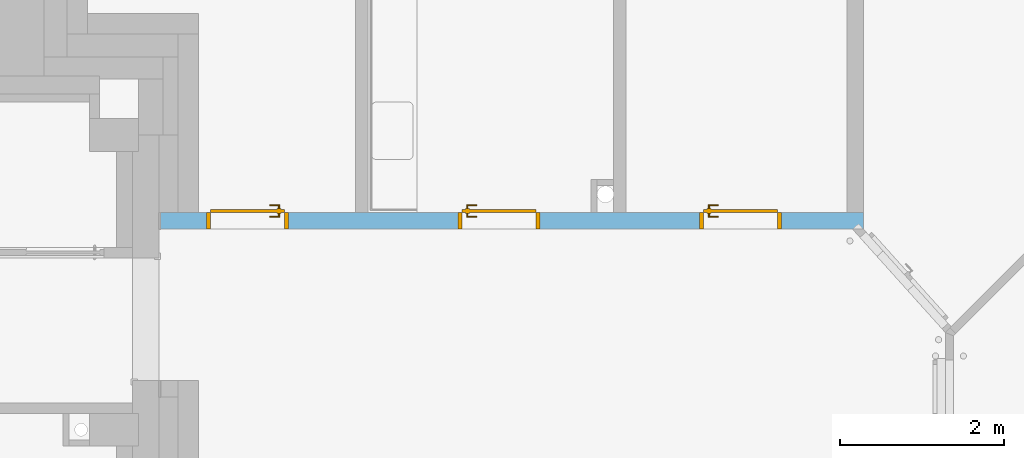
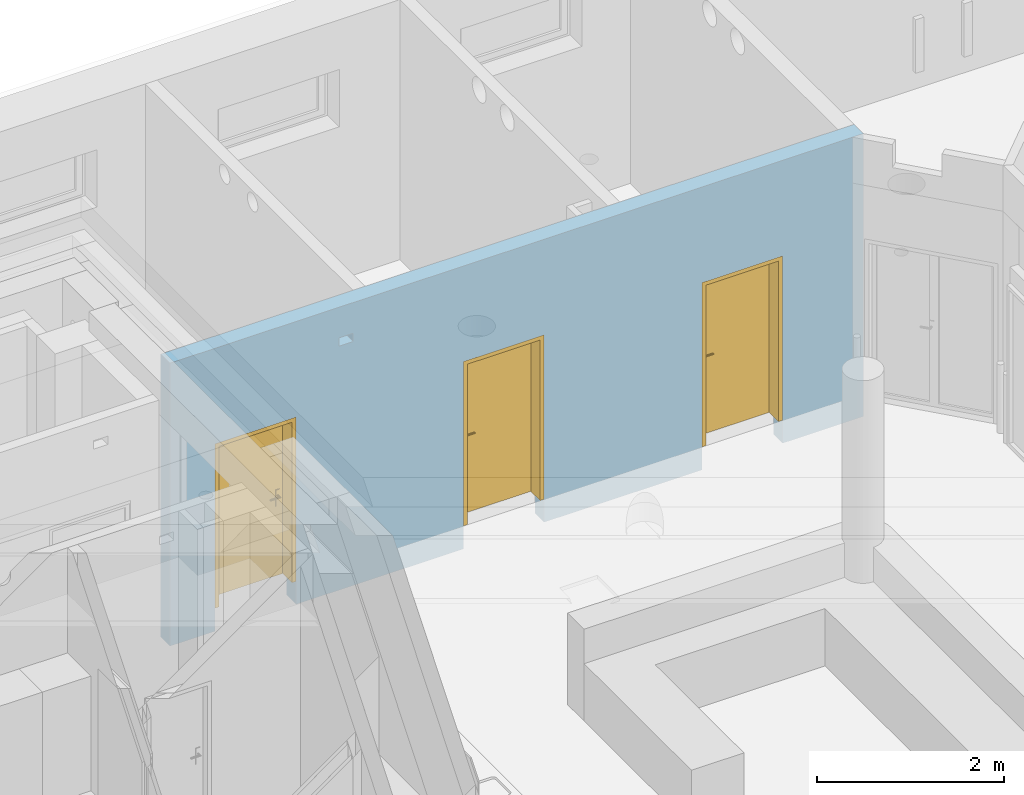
# One storey, part 117 of 140: 3 doors, 4 openings, plus 1 element that does not belong to this part.
"""IFC4 building model written with IfcOpenShell, lengths in metres."""

from ifc_helpers import new_model, entity, si_unit, converted_unit, derived_unit, frame, frame_2d, origin, origin_with_axes, place, context, subcontext, project, spatial, polyline, rectangle, outline, extrude, closed_shell, open_shell, surface_model, source, transform, mapped, material, layer, layer_set, layer_usage, type_object, element, fill, save


model = new_model("IFC4")

# Units and contexts
model_context = context("Model", 3, precision=1e-05, world=origin())
body_context = subcontext(model_context, "Body", "Model", "MODEL_VIEW")
ifc_project = project(units=[si_unit("LENGTHUNIT", "METRE"), si_unit("AREAUNIT", "SQUARE_METRE"), si_unit("VOLUMEUNIT", "CUBIC_METRE"), si_unit("MASSUNIT", "GRAM", prefix="KILO"), converted_unit("PLANEANGLEUNIT", "DEGREE", entity("IfcPlaneAngleMeasure", 0.0174532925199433), si_unit("PLANEANGLEUNIT", "RADIAN"), dimensions=[0, 0, 0, 0, 0, 0, 0]), derived_unit("THERMALTRANSMITTANCEUNIT", [(si_unit("POWERUNIT", "WATT"), 1), (si_unit("THERMODYNAMICTEMPERATUREUNIT", "KELVIN"), -1), (si_unit("LENGTHUNIT", "METRE"), -2)]), derived_unit("VOLUMETRICFLOWRATEUNIT", [(si_unit("LENGTHUNIT", "METRE"), 3), (converted_unit("TIMEUNIT", "hour", entity("IfcTimeMeasure", 3600.0), si_unit("TIMEUNIT", "SECOND"), dimensions=[0, 0, 1, 0, 0, 0, 0]), -1), (si_unit("LENGTHUNIT", "METRE"), -1)])], contexts=[model_context])

# Site, building, storey
site_placement = place(None, origin())
site = spatial("IfcSite", under=ifc_project, at=site_placement, Name="3. ASŘ", CompositionType="ELEMENT")
building_placement = place(site_placement, origin())
building = spatial("IfcBuilding", under=site, at=building_placement, Name="Pavilon C", CompositionType="ELEMENT")
storey_placement = place(building_placement, origin())
storey = spatial("IfcBuildingStorey", under=building, at=storey_placement, Name="Půdorys 1.NP", CompositionType="ELEMENT", Elevation=0.0)

# Wall, openings, doors
ifc_material = material(Name="ZELEZOBETONOVÁ KCE")
ifc_layer = layer(ifc_material, 0.2)
ifc_layer_set = layer_set([ifc_layer])
ifc_layer_usage = layer_usage(ifc_layer_set, "AXIS2", "POSITIVE", 0.0)
wall_placement = place(storey_placement, frame((50.22, 27.65, -0.3)))
wall = element("IfcWall", 1, at=wall_placement, inside=storey, material=ifc_layer_usage, Name="ZELEZOBETONOVÁ KCE", context=body_context, shape_type="SweptSolid", body=[
    extrude(rectangle(XDim=8.58, YDim=0.2, at=frame_2d((4.29, 0.1), x_axis=(1.0, 0.0))), origin_with_axes(), (0.0, 0.0, 1.0), 3.7),
])
opening_1_placement = place(wall_placement, frame((7.58, 0.2, 0.0), z_axis=(0.0, -1.0, 0.0), x_axis=(0.0, 0.0, 1.0)))
opening_1 = element("IfcOpeningElement", 2, at=opening_1_placement, cuts=wall, Name="Dveřní otvor", ObjectType="Opening", context=body_context, shape_type="SweptSolid", body=[
    extrude(outline(polyline([(0.0, 1.0), (2.45, 1.0), (2.45, 0.0), (0.0, 0.0), (0.0, 1.0)])), origin_with_axes(), (0.0, 0.0, 1.0), 0.2),
])
opening_2_placement = place(wall_placement, frame((4.63, 0.2, 0.0), z_axis=(0.0, -1.0, 0.0), x_axis=(0.0, 0.0, 1.0)))
opening_2 = element("IfcOpeningElement", 3, at=opening_2_placement, cuts=wall, Name="Dveřní otvor", ObjectType="Opening", context=body_context, shape_type="SweptSolid", body=[
    extrude(outline(polyline([(0.0, 1.0), (2.45, 1.0), (2.45, 0.0), (0.0, 0.0), (0.0, 1.0)])), origin_with_axes(), (0.0, 0.0, 1.0), 0.2),
])
opening_3_placement = place(wall_placement, frame((1.56, 0.2, 0.0), z_axis=(0.0, -1.0, 0.0), x_axis=(0.0, 0.0, 1.0)))
opening_3 = element("IfcOpeningElement", 4, at=opening_3_placement, cuts=wall, Name="Dveřní otvor", ObjectType="Opening", context=body_context, shape_type="SweptSolid", body=[
    extrude(outline(polyline([(0.0, 1.0), (2.45, 1.0), (2.45, 0.0), (0.0, 0.0), (0.0, 1.0)])), origin_with_axes(), (0.0, 0.0, 1.0), 0.2),
])
opening_4_placement = place(wall_placement, frame((2.0925, 0.0, 3.19), z_axis=(0.0, 1.0, 0.0), x_axis=(0.0, 0.0, 1.0)))
element("IfcOpeningElement", 5, at=opening_4_placement, cuts=wall, Name="ZTI", ObjectType="Opening", context=body_context, shape_type="SweptSolid", body=[
    extrude(outline(polyline([(0.0, 0.175), (0.11, 0.175), (0.11, 0.0), (0.0, 0.0), (0.0, 0.175)])), origin_with_axes(), (0.0, 0.0, 1.0), 0.2),
])
door_type_1 = type_object("IfcDoorType", Name="I.D114", OperationType="NOTDEFINED", ParameterTakesPrecedence=False, PredefinedType="DOOR")
shared_shape_1 = source(origin_with_axes(), body_context, "Body", "SurfaceModel", [
    surface_model("IfcShellBasedSurfaceModel", [(0.0, 0.2, 2.149), (0.0, 0.2, -5.6843418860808e-17), (0.05, 0.2, -5.6843418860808e-17), (0.05, 0.2, 2.149), (0.0, 0.0, -5.6843418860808e-17), (0.0, 2.55795384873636e-16, 2.149), (0.05, 2.55795384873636e-16, 2.149), (0.05, 0.0, -5.6843418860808e-17)], [closed_shell([[[0, 1, 2, 3]], [[4, 5, 6, 7]], [[1, 0, 5, 4]], [[2, 1, 4, 7]], [[3, 2, 7, 6]], [[0, 3, 6, 5]]], orient=[[False], [False], [False], [False], [False], [False]])]),
    surface_model("IfcShellBasedSurfaceModel", [(0.95, 0.2, 2.149), (0.95, 0.2, -5.6843418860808e-17), (1.0, 0.2, -5.6843418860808e-17), (1.0, 0.2, 2.149), (0.95, 0.0, -5.6843418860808e-17), (0.95, 2.55795384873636e-16, 2.149), (1.0, 2.55795384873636e-16, 2.149), (1.0, 0.0, -5.6843418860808e-17)], [closed_shell([[[0, 1, 2, 3]], [[4, 5, 6, 7]], [[1, 0, 5, 4]], [[2, 1, 4, 7]], [[3, 2, 7, 6]], [[0, 3, 6, 5]]], orient=[[False], [False], [False], [False], [False], [False]])]),
    surface_model("IfcShellBasedSurfaceModel", [(0.05, 0.2, 2.149), (0.05, 0.2, 2.099), (0.95, 0.2, 2.099), (0.95, 0.2, 2.149), (0.05, 2.55795384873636e-16, 2.099), (0.05, 2.55795384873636e-16, 2.149), (0.95, 2.55795384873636e-16, 2.149), (0.95, 2.55795384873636e-16, 2.099)], [closed_shell([[[0, 1, 2, 3]], [[4, 5, 6, 7]], [[1, 0, 5, 4]], [[2, 1, 4, 7]], [[3, 2, 7, 6]], [[0, 3, 6, 5]]], orient=[[False], [False], [False], [False], [False], [False]])]),
    surface_model("IfcShellBasedSurfaceModel", [(0.05, 0.24, 2.099), (0.05, 0.24, -5.6843418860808e-17), (0.95, 0.24, -5.6843418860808e-17), (0.95, 0.24, 2.099), (0.05, 0.2, -5.6843418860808e-17), (0.05, 0.2, 2.099), (0.95, 0.2, 2.099), (0.95, 0.2, -5.6843418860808e-17)], [closed_shell([[[0, 1, 2, 3]], [[4, 5, 6, 7]], [[1, 0, 5, 4]], [[2, 1, 4, 7]], [[3, 2, 7, 6]], [[0, 3, 6, 5]]], orient=[[False], [False], [False], [False], [False], [False]])]),
    surface_model("IfcShellBasedSurfaceModel", [(0.86, 0.2, 1.125), (0.86, 0.2, 0.91), (0.91, 0.2, 0.91), (0.91, 0.2, 1.125), (0.86, 0.19, 0.91), (0.86, 0.19, 1.125), (0.91, 0.19, 1.125), (0.91, 0.19, 0.91)], [closed_shell([[[0, 1, 2, 3]], [[4, 5, 6, 7]], [[1, 0, 5, 4]], [[2, 1, 4, 7]], [[3, 2, 7, 6]], [[0, 3, 6, 5]]], orient=[[False], [False], [False], [False], [False], [False]])]),
    surface_model("IfcShellBasedSurfaceModel", [(0.885, 0.19, 1.06), (0.88, 0.19, 1.05866025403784), (0.876339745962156, 0.19, 1.055), (0.875, 0.19, 1.05), (0.876339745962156, 0.19, 1.045), (0.88, 0.19, 1.04133974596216), (0.885, 0.19, 1.04), (0.89, 0.19, 1.04133974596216), (0.893660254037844, 0.19, 1.045), (0.895, 0.19, 1.05), (0.893660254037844, 0.19, 1.055), (0.89, 0.19, 1.05866025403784), (0.89, 0.145, 1.05866025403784), (0.885, 0.15, 1.06), (0.893660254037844, 0.141339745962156, 1.055), (0.895, 0.14, 1.05), (0.893660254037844, 0.141339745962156, 1.045), (0.89, 0.145, 1.04133974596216), (0.885, 0.15, 1.04), (0.88, 0.155, 1.04133974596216), (0.876339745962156, 0.158660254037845, 1.045), (0.875, 0.16, 1.05), (0.876339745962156, 0.158660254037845, 1.055), (0.88, 0.155, 1.05866025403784), (0.77, 0.145, 1.05866025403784), (0.77, 0.15, 1.06), (0.77, 0.141339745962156, 1.055), (0.77, 0.14, 1.05), (0.77, 0.141339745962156, 1.045), (0.77, 0.145, 1.04133974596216), (0.77, 0.15, 1.04), (0.77, 0.155, 1.04133974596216), (0.77, 0.158660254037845, 1.045), (0.77, 0.16, 1.05), (0.77, 0.158660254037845, 1.055), (0.77, 0.155, 1.05866025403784)], [open_shell([[[0, 1, 2, 3, 4, 5, 6, 7, 8, 9, 10, 11]], [[0, 11, 12, 13]], [[11, 10, 14, 12]], [[10, 9, 15, 14]], [[9, 8, 16, 15]], [[8, 7, 17, 16]], [[7, 6, 18, 17]], [[6, 5, 19, 18]], [[5, 4, 20, 19]], [[4, 3, 21, 20]], [[3, 2, 22, 21]], [[2, 1, 23, 22]], [[1, 0, 13, 23]], [[13, 12, 24, 25]], [[12, 14, 26, 24]], [[14, 15, 27, 26]], [[15, 16, 28, 27]], [[16, 17, 29, 28]], [[17, 18, 30, 29]], [[18, 19, 31, 30]], [[19, 20, 32, 31]], [[20, 21, 33, 32]], [[21, 22, 34, 33]], [[22, 23, 35, 34]], [[23, 13, 25, 35]]], orient=[[False], [False], [False], [False], [False], [False], [False], [False], [False], [False], [False], [False], [False], [False], [False], [False], [False], [False], [False], [False], [False], [False], [False], [False], [False]])]),
    surface_model("IfcShellBasedSurfaceModel", [(0.86, 0.24, 1.125), (0.91, 0.24, 1.125), (0.91, 0.24, 0.91), (0.86, 0.24, 0.91), (0.86, 0.25, 0.91), (0.91, 0.25, 0.91), (0.91, 0.25, 1.125), (0.86, 0.25, 1.125)], [closed_shell([[[0, 1, 2, 3]], [[4, 5, 6, 7]], [[3, 4, 7, 0]], [[2, 5, 4, 3]], [[1, 6, 5, 2]], [[0, 7, 6, 1]]], orient=[[False], [False], [False], [False], [False], [False]])]),
    surface_model("IfcShellBasedSurfaceModel", [(0.885, 0.25, 1.06), (0.89, 0.25, 1.05866025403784), (0.893660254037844, 0.25, 1.055), (0.895, 0.25, 1.05), (0.893660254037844, 0.25, 1.045), (0.89, 0.25, 1.04133974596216), (0.885, 0.25, 1.04), (0.88, 0.25, 1.04133974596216), (0.876339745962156, 0.25, 1.045), (0.875, 0.25, 1.05), (0.876339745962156, 0.25, 1.055), (0.88, 0.25, 1.05866025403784), (0.885, 0.29, 1.06), (0.89, 0.295, 1.05866025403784), (0.893660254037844, 0.298660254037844, 1.055), (0.895, 0.3, 1.05), (0.893660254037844, 0.298660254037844, 1.045), (0.89, 0.295, 1.04133974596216), (0.885, 0.29, 1.04), (0.88, 0.285, 1.04133974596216), (0.876339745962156, 0.281339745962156, 1.045), (0.875, 0.28, 1.05), (0.876339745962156, 0.281339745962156, 1.055), (0.88, 0.285, 1.05866025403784), (0.77, 0.29, 1.06), (0.77, 0.295, 1.05866025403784), (0.77, 0.298660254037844, 1.055), (0.77, 0.3, 1.05), (0.77, 0.298660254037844, 1.045), (0.77, 0.295, 1.04133974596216), (0.77, 0.29, 1.04), (0.77, 0.285, 1.04133974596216), (0.77, 0.281339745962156, 1.045), (0.77, 0.28, 1.05), (0.77, 0.281339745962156, 1.055), (0.77, 0.285, 1.05866025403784)], [open_shell([[[0, 1, 2, 3, 4, 5, 6, 7, 8, 9, 10, 11]], [[0, 12, 13, 1]], [[1, 13, 14, 2]], [[2, 14, 15, 3]], [[3, 15, 16, 4]], [[4, 16, 17, 5]], [[5, 17, 18, 6]], [[6, 18, 19, 7]], [[7, 19, 20, 8]], [[8, 20, 21, 9]], [[9, 21, 22, 10]], [[10, 22, 23, 11]], [[11, 23, 12, 0]], [[12, 24, 25, 13]], [[13, 25, 26, 14]], [[14, 26, 27, 15]], [[15, 27, 28, 16]], [[16, 28, 29, 17]], [[17, 29, 30, 18]], [[18, 30, 31, 19]], [[19, 31, 32, 20]], [[20, 32, 33, 21]], [[21, 33, 34, 22]], [[22, 34, 35, 23]], [[23, 35, 24, 12]]], orient=[[False], [False], [False], [False], [False], [False], [False], [False], [False], [False], [False], [False], [False], [False], [False], [False], [False], [False], [False], [False], [False], [False], [False], [False], [False]])]),
])
door_1_placement = place(opening_1_placement, frame((0.301, 0.0, 0.2), z_axis=(1.0, 0.0, 0.0), x_axis=(0.0, 1.0, -2.44929359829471e-16)))
door_1 = element("IfcDoor", 6, at=door_1_placement, inside=storey, type_object=door_type_1, Name="I.D114", OverallHeight=2.45, OverallWidth=1.0, context=body_context, shape_type="MappedRepresentation", body=[
    mapped(shared_shape_1, transform((0.0, 0.0, 0.0), x_axis=(1.0, 0.0, 0.0), y_axis=(0.0, -1.0, 0.0), z_axis=(0.0, 0.0, 1.0), scale=1.0)),
])
fill(opening_1, door_1)
door_type_2 = type_object("IfcDoorType", Name="I.D113", OperationType="NOTDEFINED", ParameterTakesPrecedence=False, PredefinedType="DOOR")
shared_shape_2 = source(origin_with_axes(), body_context, "Body", "SurfaceModel", [
    surface_model("IfcShellBasedSurfaceModel", [(0.0, 0.2, 2.149), (0.0, 0.2, -5.6843418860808e-17), (0.05, 0.2, -5.6843418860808e-17), (0.05, 0.2, 2.149), (0.0, 0.0, -5.6843418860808e-17), (0.0, 2.55795384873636e-16, 2.149), (0.05, 2.55795384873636e-16, 2.149), (0.05, 0.0, -5.6843418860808e-17)], [closed_shell([[[0, 1, 2, 3]], [[4, 5, 6, 7]], [[1, 0, 5, 4]], [[2, 1, 4, 7]], [[3, 2, 7, 6]], [[0, 3, 6, 5]]], orient=[[False], [False], [False], [False], [False], [False]])]),
    surface_model("IfcShellBasedSurfaceModel", [(0.95, 0.2, 2.149), (0.95, 0.2, -5.6843418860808e-17), (1.0, 0.2, -5.6843418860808e-17), (1.0, 0.2, 2.149), (0.95, 0.0, -5.6843418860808e-17), (0.95, 2.55795384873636e-16, 2.149), (1.0, 2.55795384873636e-16, 2.149), (1.0, 0.0, -5.6843418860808e-17)], [closed_shell([[[0, 1, 2, 3]], [[4, 5, 6, 7]], [[1, 0, 5, 4]], [[2, 1, 4, 7]], [[3, 2, 7, 6]], [[0, 3, 6, 5]]], orient=[[False], [False], [False], [False], [False], [False]])]),
    surface_model("IfcShellBasedSurfaceModel", [(0.05, 0.2, 2.149), (0.05, 0.2, 2.099), (0.95, 0.2, 2.099), (0.95, 0.2, 2.149), (0.05, 2.55795384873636e-16, 2.099), (0.05, 2.55795384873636e-16, 2.149), (0.95, 2.55795384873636e-16, 2.149), (0.95, 2.55795384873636e-16, 2.099)], [closed_shell([[[0, 1, 2, 3]], [[4, 5, 6, 7]], [[1, 0, 5, 4]], [[2, 1, 4, 7]], [[3, 2, 7, 6]], [[0, 3, 6, 5]]], orient=[[False], [False], [False], [False], [False], [False]])]),
    surface_model("IfcShellBasedSurfaceModel", [(0.05, 0.24, 2.099), (0.05, 0.24, -5.6843418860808e-17), (0.95, 0.24, -5.6843418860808e-17), (0.95, 0.24, 2.099), (0.05, 0.2, -5.6843418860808e-17), (0.05, 0.2, 2.099), (0.95, 0.2, 2.099), (0.95, 0.2, -5.6843418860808e-17)], [closed_shell([[[0, 1, 2, 3]], [[4, 5, 6, 7]], [[1, 0, 5, 4]], [[2, 1, 4, 7]], [[3, 2, 7, 6]], [[0, 3, 6, 5]]], orient=[[False], [False], [False], [False], [False], [False]])]),
    surface_model("IfcShellBasedSurfaceModel", [(0.86, 0.2, 1.125), (0.86, 0.2, 0.91), (0.91, 0.2, 0.91), (0.91, 0.2, 1.125), (0.86, 0.19, 0.91), (0.86, 0.19, 1.125), (0.91, 0.19, 1.125), (0.91, 0.19, 0.91)], [closed_shell([[[0, 1, 2, 3]], [[4, 5, 6, 7]], [[1, 0, 5, 4]], [[2, 1, 4, 7]], [[3, 2, 7, 6]], [[0, 3, 6, 5]]], orient=[[False], [False], [False], [False], [False], [False]])]),
    surface_model("IfcShellBasedSurfaceModel", [(0.885, 0.19, 1.06), (0.88, 0.19, 1.05866025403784), (0.876339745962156, 0.19, 1.055), (0.875, 0.19, 1.05), (0.876339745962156, 0.19, 1.045), (0.88, 0.19, 1.04133974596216), (0.885, 0.19, 1.04), (0.89, 0.19, 1.04133974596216), (0.893660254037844, 0.19, 1.045), (0.895, 0.19, 1.05), (0.893660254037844, 0.19, 1.055), (0.89, 0.19, 1.05866025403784), (0.89, 0.145, 1.05866025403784), (0.885, 0.15, 1.06), (0.893660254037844, 0.141339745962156, 1.055), (0.895, 0.14, 1.05), (0.893660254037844, 0.141339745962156, 1.045), (0.89, 0.145, 1.04133974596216), (0.885, 0.15, 1.04), (0.88, 0.155, 1.04133974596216), (0.876339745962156, 0.158660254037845, 1.045), (0.875, 0.16, 1.05), (0.876339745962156, 0.158660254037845, 1.055), (0.88, 0.155, 1.05866025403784), (0.77, 0.145, 1.05866025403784), (0.77, 0.15, 1.06), (0.77, 0.141339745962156, 1.055), (0.77, 0.14, 1.05), (0.77, 0.141339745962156, 1.045), (0.77, 0.145, 1.04133974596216), (0.77, 0.15, 1.04), (0.77, 0.155, 1.04133974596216), (0.77, 0.158660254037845, 1.045), (0.77, 0.16, 1.05), (0.77, 0.158660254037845, 1.055), (0.77, 0.155, 1.05866025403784)], [open_shell([[[0, 1, 2, 3, 4, 5, 6, 7, 8, 9, 10, 11]], [[0, 11, 12, 13]], [[11, 10, 14, 12]], [[10, 9, 15, 14]], [[9, 8, 16, 15]], [[8, 7, 17, 16]], [[7, 6, 18, 17]], [[6, 5, 19, 18]], [[5, 4, 20, 19]], [[4, 3, 21, 20]], [[3, 2, 22, 21]], [[2, 1, 23, 22]], [[1, 0, 13, 23]], [[13, 12, 24, 25]], [[12, 14, 26, 24]], [[14, 15, 27, 26]], [[15, 16, 28, 27]], [[16, 17, 29, 28]], [[17, 18, 30, 29]], [[18, 19, 31, 30]], [[19, 20, 32, 31]], [[20, 21, 33, 32]], [[21, 22, 34, 33]], [[22, 23, 35, 34]], [[23, 13, 25, 35]]], orient=[[False], [False], [False], [False], [False], [False], [False], [False], [False], [False], [False], [False], [False], [False], [False], [False], [False], [False], [False], [False], [False], [False], [False], [False], [False]])]),
    surface_model("IfcShellBasedSurfaceModel", [(0.86, 0.24, 1.125), (0.91, 0.24, 1.125), (0.91, 0.24, 0.91), (0.86, 0.24, 0.91), (0.86, 0.25, 0.91), (0.91, 0.25, 0.91), (0.91, 0.25, 1.125), (0.86, 0.25, 1.125)], [closed_shell([[[0, 1, 2, 3]], [[4, 5, 6, 7]], [[3, 4, 7, 0]], [[2, 5, 4, 3]], [[1, 6, 5, 2]], [[0, 7, 6, 1]]], orient=[[False], [False], [False], [False], [False], [False]])]),
    surface_model("IfcShellBasedSurfaceModel", [(0.885, 0.25, 1.06), (0.89, 0.25, 1.05866025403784), (0.893660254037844, 0.25, 1.055), (0.895, 0.25, 1.05), (0.893660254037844, 0.25, 1.045), (0.89, 0.25, 1.04133974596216), (0.885, 0.25, 1.04), (0.88, 0.25, 1.04133974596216), (0.876339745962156, 0.25, 1.045), (0.875, 0.25, 1.05), (0.876339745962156, 0.25, 1.055), (0.88, 0.25, 1.05866025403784), (0.885, 0.29, 1.06), (0.89, 0.295, 1.05866025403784), (0.893660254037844, 0.298660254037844, 1.055), (0.895, 0.3, 1.05), (0.893660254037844, 0.298660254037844, 1.045), (0.89, 0.295, 1.04133974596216), (0.885, 0.29, 1.04), (0.88, 0.285, 1.04133974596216), (0.876339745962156, 0.281339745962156, 1.045), (0.875, 0.28, 1.05), (0.876339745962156, 0.281339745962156, 1.055), (0.88, 0.285, 1.05866025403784), (0.77, 0.29, 1.06), (0.77, 0.295, 1.05866025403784), (0.77, 0.298660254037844, 1.055), (0.77, 0.3, 1.05), (0.77, 0.298660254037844, 1.045), (0.77, 0.295, 1.04133974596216), (0.77, 0.29, 1.04), (0.77, 0.285, 1.04133974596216), (0.77, 0.281339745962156, 1.045), (0.77, 0.28, 1.05), (0.77, 0.281339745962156, 1.055), (0.77, 0.285, 1.05866025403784)], [open_shell([[[0, 1, 2, 3, 4, 5, 6, 7, 8, 9, 10, 11]], [[0, 12, 13, 1]], [[1, 13, 14, 2]], [[2, 14, 15, 3]], [[3, 15, 16, 4]], [[4, 16, 17, 5]], [[5, 17, 18, 6]], [[6, 18, 19, 7]], [[7, 19, 20, 8]], [[8, 20, 21, 9]], [[9, 21, 22, 10]], [[10, 22, 23, 11]], [[11, 23, 12, 0]], [[12, 24, 25, 13]], [[13, 25, 26, 14]], [[14, 26, 27, 15]], [[15, 27, 28, 16]], [[16, 28, 29, 17]], [[17, 29, 30, 18]], [[18, 30, 31, 19]], [[19, 31, 32, 20]], [[20, 32, 33, 21]], [[21, 33, 34, 22]], [[22, 34, 35, 23]], [[23, 35, 24, 12]]], orient=[[False], [False], [False], [False], [False], [False], [False], [False], [False], [False], [False], [False], [False], [False], [False], [False], [False], [False], [False], [False], [False], [False], [False], [False], [False]])]),
])
door_2_placement = place(opening_2_placement, frame((0.301, 0.0, 0.2), z_axis=(1.0, 0.0, 0.0), x_axis=(0.0, 1.0, -2.44929359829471e-16)))
door_2 = element("IfcDoor", 7, at=door_2_placement, inside=storey, type_object=door_type_2, Name="I.D113", OverallHeight=2.45, OverallWidth=1.0, context=body_context, shape_type="MappedRepresentation", body=[
    mapped(shared_shape_2, transform((0.0, 0.0, 0.0), x_axis=(1.0, 0.0, 0.0), y_axis=(0.0, -1.0, 0.0), z_axis=(0.0, 0.0, 1.0), scale=1.0)),
])
fill(opening_2, door_2)
door_type_3 = type_object("IfcDoorType", Name="I.D112", OperationType="NOTDEFINED", ParameterTakesPrecedence=False, PredefinedType="DOOR")
shared_shape_3 = source(origin_with_axes(), body_context, "Body", "SurfaceModel", [
    surface_model("IfcShellBasedSurfaceModel", [(0.0, 0.2, 2.149), (0.0, 0.2, -5.6843418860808e-17), (0.05, 0.2, -5.6843418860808e-17), (0.05, 0.2, 2.149), (0.0, 0.0, -5.6843418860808e-17), (0.0, 2.55795384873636e-16, 2.149), (0.05, 2.55795384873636e-16, 2.149), (0.05, 0.0, -5.6843418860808e-17)], [closed_shell([[[0, 1, 2, 3]], [[4, 5, 6, 7]], [[1, 0, 5, 4]], [[2, 1, 4, 7]], [[3, 2, 7, 6]], [[0, 3, 6, 5]]], orient=[[False], [False], [False], [False], [False], [False]])]),
    surface_model("IfcShellBasedSurfaceModel", [(0.95, 0.2, 2.149), (0.95, 0.2, -5.6843418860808e-17), (1.0, 0.2, -5.6843418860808e-17), (1.0, 0.2, 2.149), (0.95, 0.0, -5.6843418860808e-17), (0.95, 2.55795384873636e-16, 2.149), (1.0, 2.55795384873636e-16, 2.149), (1.0, 0.0, -5.6843418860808e-17)], [closed_shell([[[0, 1, 2, 3]], [[4, 5, 6, 7]], [[1, 0, 5, 4]], [[2, 1, 4, 7]], [[3, 2, 7, 6]], [[0, 3, 6, 5]]], orient=[[False], [False], [False], [False], [False], [False]])]),
    surface_model("IfcShellBasedSurfaceModel", [(0.05, 0.2, 2.149), (0.05, 0.2, 2.099), (0.95, 0.2, 2.099), (0.95, 0.2, 2.149), (0.05, 2.55795384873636e-16, 2.099), (0.05, 2.55795384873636e-16, 2.149), (0.95, 2.55795384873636e-16, 2.149), (0.95, 2.55795384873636e-16, 2.099)], [closed_shell([[[0, 1, 2, 3]], [[4, 5, 6, 7]], [[1, 0, 5, 4]], [[2, 1, 4, 7]], [[3, 2, 7, 6]], [[0, 3, 6, 5]]], orient=[[False], [False], [False], [False], [False], [False]])]),
    surface_model("IfcShellBasedSurfaceModel", [(0.05, 0.24, 2.099), (0.05, 0.24, -5.6843418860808e-17), (0.95, 0.24, -5.6843418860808e-17), (0.95, 0.24, 2.099), (0.05, 0.2, -5.6843418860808e-17), (0.05, 0.2, 2.099), (0.95, 0.2, 2.099), (0.95, 0.2, -5.6843418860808e-17)], [closed_shell([[[0, 1, 2, 3]], [[4, 5, 6, 7]], [[1, 0, 5, 4]], [[2, 1, 4, 7]], [[3, 2, 7, 6]], [[0, 3, 6, 5]]], orient=[[False], [False], [False], [False], [False], [False]])]),
    surface_model("IfcShellBasedSurfaceModel", [(0.86, 0.2, 1.125), (0.86, 0.2, 0.91), (0.91, 0.2, 0.91), (0.91, 0.2, 1.125), (0.86, 0.19, 0.91), (0.86, 0.19, 1.125), (0.91, 0.19, 1.125), (0.91, 0.19, 0.91)], [closed_shell([[[0, 1, 2, 3]], [[4, 5, 6, 7]], [[1, 0, 5, 4]], [[2, 1, 4, 7]], [[3, 2, 7, 6]], [[0, 3, 6, 5]]], orient=[[False], [False], [False], [False], [False], [False]])]),
    surface_model("IfcShellBasedSurfaceModel", [(0.885, 0.19, 1.06), (0.88, 0.19, 1.05866025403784), (0.876339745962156, 0.19, 1.055), (0.875, 0.19, 1.05), (0.876339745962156, 0.19, 1.045), (0.88, 0.19, 1.04133974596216), (0.885, 0.19, 1.04), (0.89, 0.19, 1.04133974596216), (0.893660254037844, 0.19, 1.045), (0.895, 0.19, 1.05), (0.893660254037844, 0.19, 1.055), (0.89, 0.19, 1.05866025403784), (0.89, 0.145, 1.05866025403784), (0.885, 0.15, 1.06), (0.893660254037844, 0.141339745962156, 1.055), (0.895, 0.14, 1.05), (0.893660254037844, 0.141339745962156, 1.045), (0.89, 0.145, 1.04133974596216), (0.885, 0.15, 1.04), (0.88, 0.155, 1.04133974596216), (0.876339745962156, 0.158660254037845, 1.045), (0.875, 0.16, 1.05), (0.876339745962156, 0.158660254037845, 1.055), (0.88, 0.155, 1.05866025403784), (0.77, 0.145, 1.05866025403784), (0.77, 0.15, 1.06), (0.77, 0.141339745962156, 1.055), (0.77, 0.14, 1.05), (0.77, 0.141339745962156, 1.045), (0.77, 0.145, 1.04133974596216), (0.77, 0.15, 1.04), (0.77, 0.155, 1.04133974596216), (0.77, 0.158660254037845, 1.045), (0.77, 0.16, 1.05), (0.77, 0.158660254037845, 1.055), (0.77, 0.155, 1.05866025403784)], [open_shell([[[0, 1, 2, 3, 4, 5, 6, 7, 8, 9, 10, 11]], [[0, 11, 12, 13]], [[11, 10, 14, 12]], [[10, 9, 15, 14]], [[9, 8, 16, 15]], [[8, 7, 17, 16]], [[7, 6, 18, 17]], [[6, 5, 19, 18]], [[5, 4, 20, 19]], [[4, 3, 21, 20]], [[3, 2, 22, 21]], [[2, 1, 23, 22]], [[1, 0, 13, 23]], [[13, 12, 24, 25]], [[12, 14, 26, 24]], [[14, 15, 27, 26]], [[15, 16, 28, 27]], [[16, 17, 29, 28]], [[17, 18, 30, 29]], [[18, 19, 31, 30]], [[19, 20, 32, 31]], [[20, 21, 33, 32]], [[21, 22, 34, 33]], [[22, 23, 35, 34]], [[23, 13, 25, 35]]], orient=[[False], [False], [False], [False], [False], [False], [False], [False], [False], [False], [False], [False], [False], [False], [False], [False], [False], [False], [False], [False], [False], [False], [False], [False], [False]])]),
    surface_model("IfcShellBasedSurfaceModel", [(0.86, 0.24, 1.125), (0.91, 0.24, 1.125), (0.91, 0.24, 0.91), (0.86, 0.24, 0.91), (0.86, 0.25, 0.91), (0.91, 0.25, 0.91), (0.91, 0.25, 1.125), (0.86, 0.25, 1.125)], [closed_shell([[[0, 1, 2, 3]], [[4, 5, 6, 7]], [[3, 4, 7, 0]], [[2, 5, 4, 3]], [[1, 6, 5, 2]], [[0, 7, 6, 1]]], orient=[[False], [False], [False], [False], [False], [False]])]),
    surface_model("IfcShellBasedSurfaceModel", [(0.885, 0.25, 1.06), (0.89, 0.25, 1.05866025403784), (0.893660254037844, 0.25, 1.055), (0.895, 0.25, 1.05), (0.893660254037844, 0.25, 1.045), (0.89, 0.25, 1.04133974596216), (0.885, 0.25, 1.04), (0.88, 0.25, 1.04133974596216), (0.876339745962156, 0.25, 1.045), (0.875, 0.25, 1.05), (0.876339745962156, 0.25, 1.055), (0.88, 0.25, 1.05866025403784), (0.885, 0.29, 1.06), (0.89, 0.295, 1.05866025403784), (0.893660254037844, 0.298660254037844, 1.055), (0.895, 0.3, 1.05), (0.893660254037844, 0.298660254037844, 1.045), (0.89, 0.295, 1.04133974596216), (0.885, 0.29, 1.04), (0.88, 0.285, 1.04133974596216), (0.876339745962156, 0.281339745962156, 1.045), (0.875, 0.28, 1.05), (0.876339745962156, 0.281339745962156, 1.055), (0.88, 0.285, 1.05866025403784), (0.77, 0.29, 1.06), (0.77, 0.295, 1.05866025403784), (0.77, 0.298660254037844, 1.055), (0.77, 0.3, 1.05), (0.77, 0.298660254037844, 1.045), (0.77, 0.295, 1.04133974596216), (0.77, 0.29, 1.04), (0.77, 0.285, 1.04133974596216), (0.77, 0.281339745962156, 1.045), (0.77, 0.28, 1.05), (0.77, 0.281339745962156, 1.055), (0.77, 0.285, 1.05866025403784)], [open_shell([[[0, 1, 2, 3, 4, 5, 6, 7, 8, 9, 10, 11]], [[0, 12, 13, 1]], [[1, 13, 14, 2]], [[2, 14, 15, 3]], [[3, 15, 16, 4]], [[4, 16, 17, 5]], [[5, 17, 18, 6]], [[6, 18, 19, 7]], [[7, 19, 20, 8]], [[8, 20, 21, 9]], [[9, 21, 22, 10]], [[10, 22, 23, 11]], [[11, 23, 12, 0]], [[12, 24, 25, 13]], [[13, 25, 26, 14]], [[14, 26, 27, 15]], [[15, 27, 28, 16]], [[16, 28, 29, 17]], [[17, 29, 30, 18]], [[18, 30, 31, 19]], [[19, 31, 32, 20]], [[20, 32, 33, 21]], [[21, 33, 34, 22]], [[22, 34, 35, 23]], [[23, 35, 24, 12]]], orient=[[False], [False], [False], [False], [False], [False], [False], [False], [False], [False], [False], [False], [False], [False], [False], [False], [False], [False], [False], [False], [False], [False], [False], [False], [False]])]),
])
door_3_placement = place(opening_3_placement, frame((0.301, 1.0, 0.2), z_axis=(1.0, 0.0, 0.0), x_axis=(0.0, -1.0, 2.44929359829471e-16)))
door_3 = element("IfcDoor", 8, at=door_3_placement, inside=storey, type_object=door_type_3, Name="I.D112", OverallHeight=2.45, OverallWidth=1.0, context=body_context, shape_type="MappedRepresentation", body=[
    mapped(shared_shape_3, transform((0.0, 0.0, 0.0), x_axis=(1.0, 0.0, 0.0), y_axis=(0.0, 1.0, 0.0), z_axis=(0.0, 0.0, 1.0), scale=1.0)),
])
fill(opening_3, door_3)

save(model, "model.ifc")
